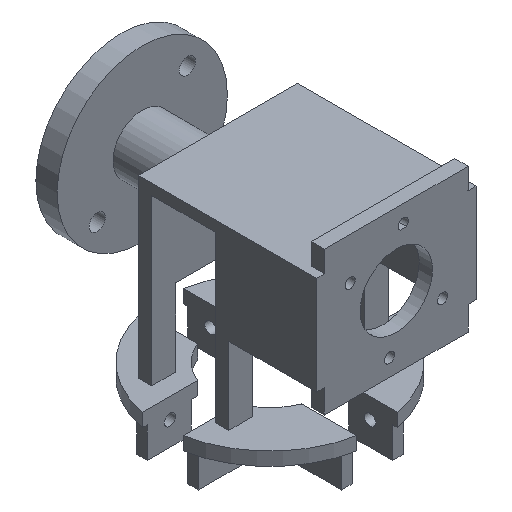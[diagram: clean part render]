
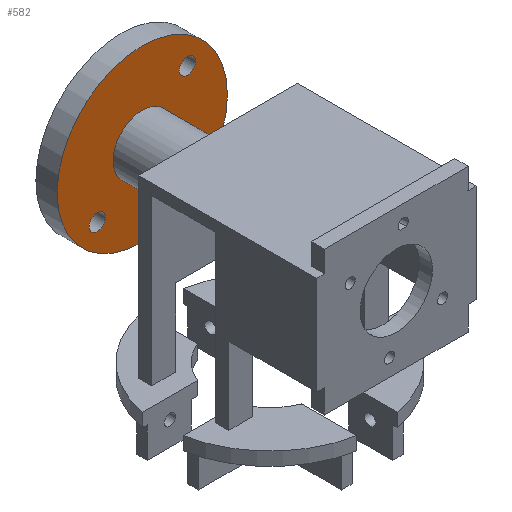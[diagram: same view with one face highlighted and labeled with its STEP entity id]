
A CAD part, isometric view. The second image highlights one B-rep face of the part: STEP entity #582.
In plain terms, the highlighted planar face has unit normal (0, -1, 0).
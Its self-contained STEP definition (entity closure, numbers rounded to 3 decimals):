
#516 = CYLINDRICAL_SURFACE('',#517,11.);
#517 = AXIS2_PLACEMENT_3D('',#518,#519,#520);
#518 = CARTESIAN_POINT('',(0.,19.5,0.));
#519 = DIRECTION('',(0.,-1.,-0.));
#520 = DIRECTION('',(1.,0.,0.));
#533 = VERTEX_POINT('',#534);
#534 = CARTESIAN_POINT('',(11.,48.,0.));
#555 = EDGE_CURVE('',#533,#533,#556,.T.);
#556 = SURFACE_CURVE('',#557,(#562,#569),.PCURVE_S1.);
#557 = CIRCLE('',#558,11.);
#558 = AXIS2_PLACEMENT_3D('',#559,#560,#561);
#559 = CARTESIAN_POINT('',(0.,48.,0.));
#560 = DIRECTION('',(-0.,1.,0.));
#561 = DIRECTION('',(1.,0.,0.));
#562 = PCURVE('',#516,#563);
#563 = DEFINITIONAL_REPRESENTATION('',(#564),#568);
#564 = LINE('',#565,#566);
#565 = CARTESIAN_POINT('',(-0.,-28.5));
#566 = VECTOR('',#567,1.);
#567 = DIRECTION('',(-1.,0.));
#568 = ( GEOMETRIC_REPRESENTATION_CONTEXT(2) 
PARAMETRIC_REPRESENTATION_CONTEXT() REPRESENTATION_CONTEXT('2D SPACE',''
  ) );
#569 = PCURVE('',#570,#575);
#570 = PLANE('',#571);
#571 = AXIS2_PLACEMENT_3D('',#572,#573,#574);
#572 = CARTESIAN_POINT('',(0.,48.,0.)
  );
#573 = DIRECTION('',(0.,1.,0.));
#574 = DIRECTION('',(0.,-0.,1.));
#575 = DEFINITIONAL_REPRESENTATION('',(#576),#580);
#576 = CIRCLE('',#577,11.);
#577 = AXIS2_PLACEMENT_2D('',#578,#579);
#578 = CARTESIAN_POINT('',(0.,0.));
#579 = DIRECTION('',(0.,1.));
#580 = ( GEOMETRIC_REPRESENTATION_CONTEXT(2) 
PARAMETRIC_REPRESENTATION_CONTEXT() REPRESENTATION_CONTEXT('2D SPACE',''
  ) );
#582 = ADVANCED_FACE('',(#583,#614,#649,#652),#570,.F.);
#583 = FACE_BOUND('',#584,.F.);
#584 = EDGE_LOOP('',(#585));
#585 = ORIENTED_EDGE('',*,*,#586,.T.);
#586 = EDGE_CURVE('',#587,#587,#589,.T.);
#587 = VERTEX_POINT('',#588);
#588 = CARTESIAN_POINT('',(32.,48.,0.));
#589 = SURFACE_CURVE('',#590,(#595,#602),.PCURVE_S1.);
#590 = CIRCLE('',#591,32.);
#591 = AXIS2_PLACEMENT_3D('',#592,#593,#594);
#592 = CARTESIAN_POINT('',(0.,48.,0.));
#593 = DIRECTION('',(-0.,1.,0.));
#594 = DIRECTION('',(1.,0.,0.));
#595 = PCURVE('',#570,#596);
#596 = DEFINITIONAL_REPRESENTATION('',(#597),#601);
#597 = CIRCLE('',#598,32.);
#598 = AXIS2_PLACEMENT_2D('',#599,#600);
#599 = CARTESIAN_POINT('',(0.,0.));
#600 = DIRECTION('',(0.,1.));
#601 = ( GEOMETRIC_REPRESENTATION_CONTEXT(2) 
PARAMETRIC_REPRESENTATION_CONTEXT() REPRESENTATION_CONTEXT('2D SPACE',''
  ) );
#602 = PCURVE('',#603,#608);
#603 = CYLINDRICAL_SURFACE('',#604,32.);
#604 = AXIS2_PLACEMENT_3D('',#605,#606,#607);
#605 = CARTESIAN_POINT('',(0.,48.,0.));
#606 = DIRECTION('',(0.,-1.,-0.));
#607 = DIRECTION('',(1.,0.,0.));
#608 = DEFINITIONAL_REPRESENTATION('',(#609),#613);
#609 = LINE('',#610,#611);
#610 = CARTESIAN_POINT('',(-0.,0.));
#611 = VECTOR('',#612,1.);
#612 = DIRECTION('',(-1.,0.));
#613 = ( GEOMETRIC_REPRESENTATION_CONTEXT(2) 
PARAMETRIC_REPRESENTATION_CONTEXT() REPRESENTATION_CONTEXT('2D SPACE',''
  ) );
#614 = FACE_BOUND('',#615,.F.);
#615 = EDGE_LOOP('',(#616));
#616 = ORIENTED_EDGE('',*,*,#617,.T.);
#617 = EDGE_CURVE('',#618,#618,#620,.T.);
#618 = VERTEX_POINT('',#619);
#619 = CARTESIAN_POINT('',(-13.921,48.,-16.971));
#620 = SURFACE_CURVE('',#621,(#626,#637),.PCURVE_S1.);
#621 = CIRCLE('',#622,3.05);
#622 = AXIS2_PLACEMENT_3D('',#623,#624,#625);
#623 = CARTESIAN_POINT('',(-16.971,48.,-16.971));
#624 = DIRECTION('',(0.,-1.,-0.));
#625 = DIRECTION('',(1.,0.,0.));
#626 = PCURVE('',#570,#627);
#627 = DEFINITIONAL_REPRESENTATION('',(#628),#636);
#628 = ( BOUNDED_CURVE() B_SPLINE_CURVE(2,(#629,#630,#631,#632,#633,#634
,#635),.UNSPECIFIED.,.T.,.F.) B_SPLINE_CURVE_WITH_KNOTS((1,2,2,2,2,1),(
    -2.094,0.,2.094,4.189,6.283,
8.378),.UNSPECIFIED.) CURVE() GEOMETRIC_REPRESENTATION_ITEM() 
RATIONAL_B_SPLINE_CURVE((1.,0.5,1.,0.5,1.,0.5,1.)) REPRESENTATION_ITEM(
  '') );
#629 = CARTESIAN_POINT('',(-16.971,-13.921));
#630 = CARTESIAN_POINT('',(-11.688,-13.921));
#631 = CARTESIAN_POINT('',(-14.329,-18.496));
#632 = CARTESIAN_POINT('',(-16.971,-23.071));
#633 = CARTESIAN_POINT('',(-19.612,-18.496));
#634 = CARTESIAN_POINT('',(-22.253,-13.921));
#635 = CARTESIAN_POINT('',(-16.971,-13.921));
#636 = ( GEOMETRIC_REPRESENTATION_CONTEXT(2) 
PARAMETRIC_REPRESENTATION_CONTEXT() REPRESENTATION_CONTEXT('2D SPACE',''
  ) );
#637 = PCURVE('',#638,#643);
#638 = CYLINDRICAL_SURFACE('',#639,3.05);
#639 = AXIS2_PLACEMENT_3D('',#640,#641,#642);
#640 = CARTESIAN_POINT('',(-16.971,47.,-16.971));
#641 = DIRECTION('',(0.,-1.,-0.));
#642 = DIRECTION('',(1.,0.,0.));
#643 = DEFINITIONAL_REPRESENTATION('',(#644),#648);
#644 = LINE('',#645,#646);
#645 = CARTESIAN_POINT('',(-6.283,-1.));
#646 = VECTOR('',#647,1.);
#647 = DIRECTION('',(1.,-0.));
#648 = ( GEOMETRIC_REPRESENTATION_CONTEXT(2) 
PARAMETRIC_REPRESENTATION_CONTEXT() REPRESENTATION_CONTEXT('2D SPACE',''
  ) );
#649 = FACE_BOUND('',#650,.F.);
#650 = EDGE_LOOP('',(#651));
#651 = ORIENTED_EDGE('',*,*,#555,.F.);
#652 = FACE_BOUND('',#653,.F.);
#653 = EDGE_LOOP('',(#654));
#654 = ORIENTED_EDGE('',*,*,#655,.T.);
#655 = EDGE_CURVE('',#656,#656,#658,.T.);
#656 = VERTEX_POINT('',#657);
#657 = CARTESIAN_POINT('',(20.021,48.,16.971));
#658 = SURFACE_CURVE('',#659,(#664,#675),.PCURVE_S1.);
#659 = CIRCLE('',#660,3.05);
#660 = AXIS2_PLACEMENT_3D('',#661,#662,#663);
#661 = CARTESIAN_POINT('',(16.971,48.,16.971));
#662 = DIRECTION('',(0.,-1.,-0.));
#663 = DIRECTION('',(1.,0.,0.));
#664 = PCURVE('',#570,#665);
#665 = DEFINITIONAL_REPRESENTATION('',(#666),#674);
#666 = ( BOUNDED_CURVE() B_SPLINE_CURVE(2,(#667,#668,#669,#670,#671,#672
,#673),.UNSPECIFIED.,.T.,.F.) B_SPLINE_CURVE_WITH_KNOTS((1,2,2,2,2,1),(
    -2.094,0.,2.094,4.189,6.283,
8.378),.UNSPECIFIED.) CURVE() GEOMETRIC_REPRESENTATION_ITEM() 
RATIONAL_B_SPLINE_CURVE((1.,0.5,1.,0.5,1.,0.5,1.)) REPRESENTATION_ITEM(
  '') );
#667 = CARTESIAN_POINT('',(16.971,20.021));
#668 = CARTESIAN_POINT('',(22.253,20.021));
#669 = CARTESIAN_POINT('',(19.612,15.446));
#670 = CARTESIAN_POINT('',(16.971,10.871));
#671 = CARTESIAN_POINT('',(14.329,15.446));
#672 = CARTESIAN_POINT('',(11.688,20.021));
#673 = CARTESIAN_POINT('',(16.971,20.021));
#674 = ( GEOMETRIC_REPRESENTATION_CONTEXT(2) 
PARAMETRIC_REPRESENTATION_CONTEXT() REPRESENTATION_CONTEXT('2D SPACE',''
  ) );
#675 = PCURVE('',#676,#681);
#676 = CYLINDRICAL_SURFACE('',#677,3.05);
#677 = AXIS2_PLACEMENT_3D('',#678,#679,#680);
#678 = CARTESIAN_POINT('',(16.971,47.,16.971));
#679 = DIRECTION('',(0.,-1.,-0.));
#680 = DIRECTION('',(1.,0.,0.));
#681 = DEFINITIONAL_REPRESENTATION('',(#682),#686);
#682 = LINE('',#683,#684);
#683 = CARTESIAN_POINT('',(-6.283,-1.));
#684 = VECTOR('',#685,1.);
#685 = DIRECTION('',(1.,-0.));
#686 = ( GEOMETRIC_REPRESENTATION_CONTEXT(2) 
PARAMETRIC_REPRESENTATION_CONTEXT() REPRESENTATION_CONTEXT('2D SPACE',''
  ) );
